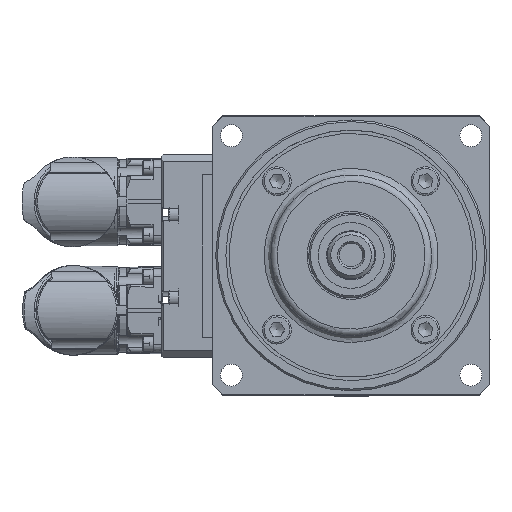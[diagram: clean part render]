
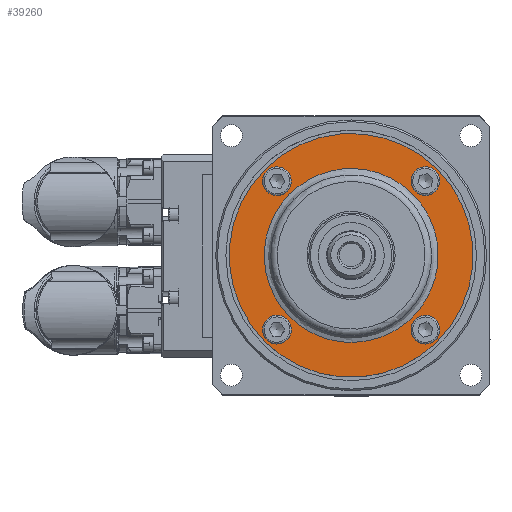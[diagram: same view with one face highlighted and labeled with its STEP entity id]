
A CAD part, top view. The second image highlights one B-rep face of the part: STEP entity #39260.
In plain terms, the highlighted planar face has unit normal (0, 0, 1).
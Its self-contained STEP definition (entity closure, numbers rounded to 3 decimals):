
#643=B_SPLINE_CURVE_WITH_KNOTS('',3,(#57510,#57511,#57512,#57513,#57514,
#57515,#57516,#57517,#57518,#57519,#57520,#57521,#57522,#57523,#57524,#57525,
#57526,#57527),.UNSPECIFIED.,.T.,.F.,(4,1,1,1,1,1,1,1,1,1,1,1,1,1,1,4),
(-32.046,-30.902,-29.757,-28.613,
-27.468,-26.324,-25.179,-23.653,-22.89,
-22.127,-21.364,-20.601,-19.457,
-18.312,-17.168,-16.023),.UNSPECIFIED.);
#7193=PLANE('',#41827);
#7851=FACE_BOUND('',#10726,.T.);
#7852=FACE_BOUND('',#10727,.T.);
#7853=FACE_BOUND('',#10728,.T.);
#7854=FACE_BOUND('',#10729,.T.);
#7855=FACE_BOUND('',#10730,.T.);
#8276=FACE_OUTER_BOUND('',#10725,.T.);
#10725=EDGE_LOOP('',(#25245));
#10726=EDGE_LOOP('',(#25246));
#10727=EDGE_LOOP('',(#25247));
#10728=EDGE_LOOP('',(#25248));
#10729=EDGE_LOOP('',(#25249));
#10730=EDGE_LOOP('',(#25250));
#13265=CIRCLE('',#41686,4.25);
#13268=CIRCLE('',#41699,4.25);
#13327=CIRCLE('',#41828,36.);
#13328=CIRCLE('',#41829,4.25);
#13329=CIRCLE('',#41830,4.25);
#15123=VERTEX_POINT('',#56811);
#15138=VERTEX_POINT('',#56869);
#15296=VERTEX_POINT('',#57508);
#15297=VERTEX_POINT('',#57575);
#15298=VERTEX_POINT('',#57577);
#15299=VERTEX_POINT('',#57579);
#18846=EDGE_CURVE('',#15123,#15123,#13265,.T.);
#18867=EDGE_CURVE('',#15138,#15138,#13268,.T.);
#19084=EDGE_CURVE('',#15296,#15296,#643,.T.);
#19086=EDGE_CURVE('',#15297,#15297,#13327,.T.);
#19087=EDGE_CURVE('',#15298,#15298,#13328,.T.);
#19088=EDGE_CURVE('',#15299,#15299,#13329,.T.);
#25245=ORIENTED_EDGE('',*,*,#19086,.T.);
#25246=ORIENTED_EDGE('',*,*,#18846,.T.);
#25247=ORIENTED_EDGE('',*,*,#19087,.T.);
#25248=ORIENTED_EDGE('',*,*,#18867,.T.);
#25249=ORIENTED_EDGE('',*,*,#19088,.T.);
#25250=ORIENTED_EDGE('',*,*,#19084,.F.);
#39260=ADVANCED_FACE('',(#8276,#7851,#7852,#7853,#7854,#7855),#7193,.T.);
#41686=AXIS2_PLACEMENT_3D('',#56812,#46231,#46232);
#41699=AXIS2_PLACEMENT_3D('',#56870,#46269,#46270);
#41827=AXIS2_PLACEMENT_3D('',#57574,#46653,#46654);
#41828=AXIS2_PLACEMENT_3D('',#57576,#46655,#46656);
#41829=AXIS2_PLACEMENT_3D('',#57578,#46657,#46658);
#41830=AXIS2_PLACEMENT_3D('',#57580,#46659,#46660);
#46231=DIRECTION('center_axis',(0.,0.,
-1.));
#46232=DIRECTION('ref_axis',(-0.035,-0.999,0.));
#46269=DIRECTION('center_axis',(0.,0.,
-1.));
#46270=DIRECTION('ref_axis',(0.688,0.726,0.));
#46653=DIRECTION('center_axis',(0.,0.,
1.));
#46654=DIRECTION('ref_axis',(-0.706,0.709,0.));
#46655=DIRECTION('center_axis',(0.,0.,
1.));
#46656=DIRECTION('ref_axis',(-0.709,-0.706,0.));
#46657=DIRECTION('center_axis',(0.,0.,
-1.));
#46658=DIRECTION('ref_axis',(0.653,0.757,0.));
#46659=DIRECTION('center_axis',(0.,0.,
-1.));
#46660=DIRECTION('ref_axis',(-0.065,-0.998,0.));
#56811=CARTESIAN_POINT('',(-22.067,-26.168,-6.738));
#56812=CARTESIAN_POINT('Origin',(-21.92,-21.92,-6.738));
#56869=CARTESIAN_POINT('',(24.844,25.004,-6.738));
#56870=CARTESIAN_POINT('Origin',(21.92,21.92,-6.738));
#57508=CARTESIAN_POINT('',(18.181,18.101,-6.738));
#57510=CARTESIAN_POINT('Ctrl Pts',(18.182,18.101,-6.738));
#57511=CARTESIAN_POINT('Ctrl Pts',(15.484,20.808,-6.738));
#57512=CARTESIAN_POINT('Ctrl Pts',(8.878,25.003,-6.738));
#57513=CARTESIAN_POINT('Ctrl Pts',(-2.877,26.379,-6.738));
#57514=CARTESIAN_POINT('Ctrl Pts',(-14.028,22.519,-6.738));
#57515=CARTESIAN_POINT('Ctrl Pts',(-22.42,14.194,-6.738));
#57516=CARTESIAN_POINT('Ctrl Pts',(-26.35,3.064,-6.738));
#57517=CARTESIAN_POINT('Ctrl Pts',(-24.942,-9.993,
-6.738));
#57518=CARTESIAN_POINT('Ctrl Pts',(-17.829,-19.702,-6.738));
#57519=CARTESIAN_POINT('Ctrl Pts',(-8.669,-24.549,
-6.738));
#57520=CARTESIAN_POINT('Ctrl Pts',(-1.052,-26.024,-6.738));
#57521=CARTESIAN_POINT('Ctrl Pts',(6.67,-25.17,-6.738));
#57522=CARTESIAN_POINT('Ctrl Pts',(14.981,-21.579,-6.738));
#57523=CARTESIAN_POINT('Ctrl Pts',(22.429,-14.18,-6.738));
#57524=CARTESIAN_POINT('Ctrl Pts',(26.356,-3.033,-6.738));
#57525=CARTESIAN_POINT('Ctrl Pts',(25.072,8.699,-6.738));
#57526=CARTESIAN_POINT('Ctrl Pts',(20.879,15.393,-6.738));
#57527=CARTESIAN_POINT('Ctrl Pts',(18.182,18.101,-6.738));
#57574=CARTESIAN_POINT('Origin',(-21.26,-21.166,-6.738));
#57575=CARTESIAN_POINT('',(-25.512,-25.399,-6.738));
#57576=CARTESIAN_POINT('Origin',(0.,0.,
-6.738));
#57577=CARTESIAN_POINT('',(24.696,-18.702,-6.738));
#57578=CARTESIAN_POINT('Origin',(21.92,-21.92,-6.738));
#57579=CARTESIAN_POINT('',(-22.195,17.679,-6.738));
#57580=CARTESIAN_POINT('Origin',(-21.92,21.92,-6.738));
